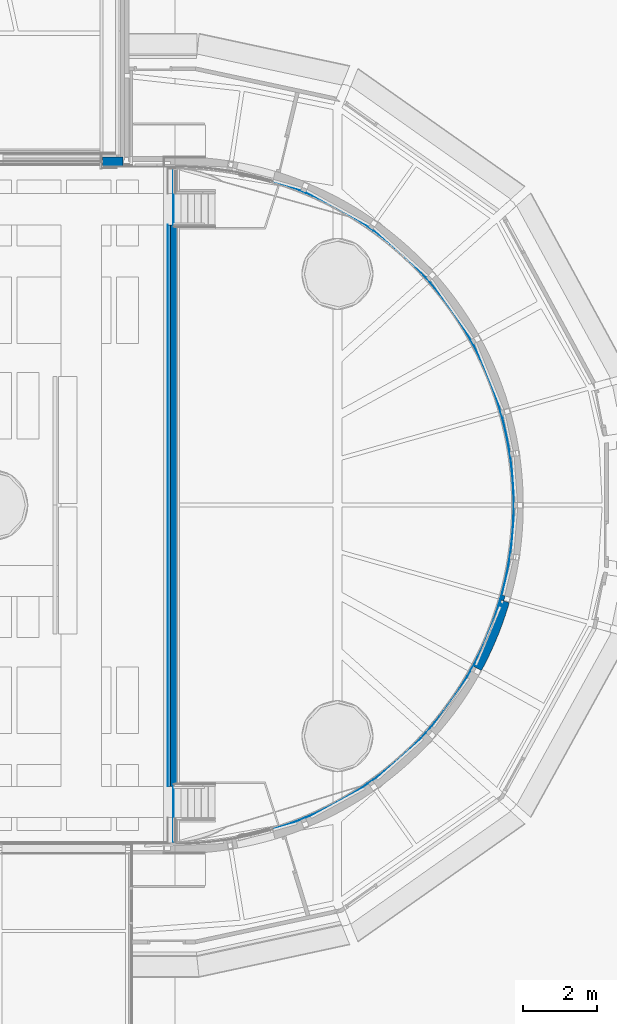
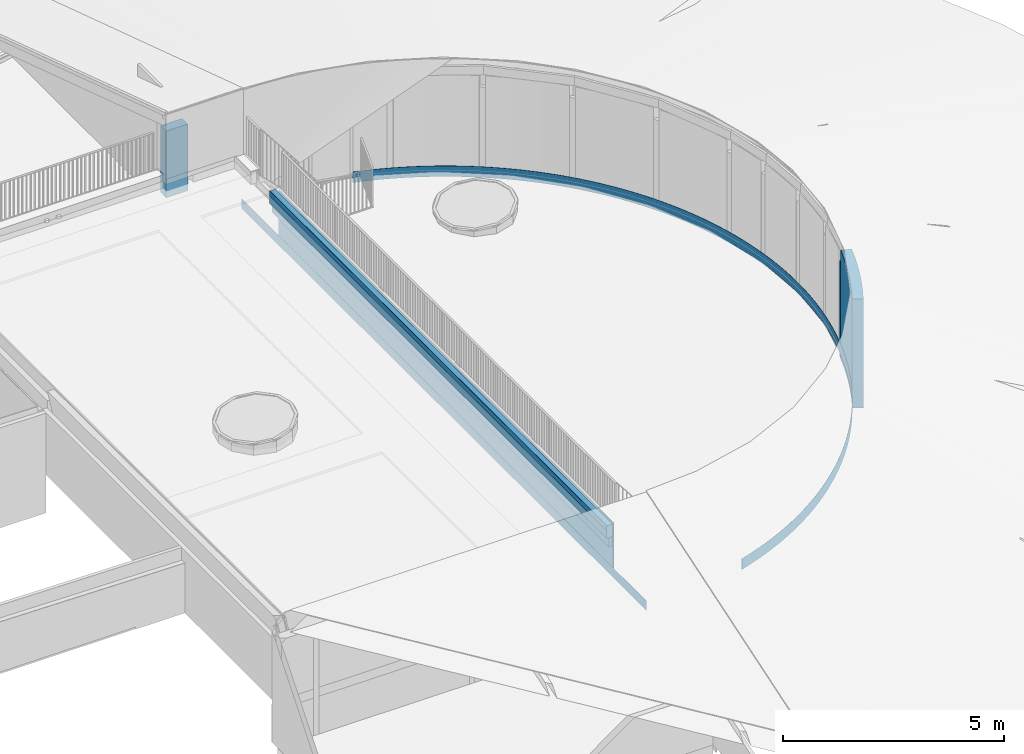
# One storey, part 31 of 66: 9 walls.
"""IFC2X3 building model written with IfcOpenShell, lengths in millimetres."""

from ifc_helpers import new_model, entity, si_unit, converted_unit, derived_unit, direction, frame, frame_2d, origin, place, context, subcontext, project, spatial, polyline, circle_curve, parameter, trimmed, segment, composite_curve, rectangle, outline, extrude, clip, halfspace, material, layer, layer_set, layer_usage, type_object, element, save


model = new_model("IFC2X3")

# Units and contexts
model_context = context("Model", 3, precision=0.01, world=origin(), true_north=direction((6.12303176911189e-17, 1.0)))
body_context = subcontext(model_context, "Body", "Model", "MODEL_VIEW")
ifc_project = project(units=[si_unit("LENGTHUNIT", "METRE", prefix="MILLI"), si_unit("AREAUNIT", "SQUARE_METRE"), si_unit("VOLUMEUNIT", "CUBIC_METRE"), converted_unit("PLANEANGLEUNIT", "DEGREE", entity("IfcRatioMeasure", 0.0174532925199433), si_unit("PLANEANGLEUNIT", "RADIAN"), dimensions=[0, 0, 0, 0, 0, 0, 0]), si_unit("MASSUNIT", "GRAM", prefix="KILO"), derived_unit("MASSDENSITYUNIT", [(si_unit("MASSUNIT", "GRAM", prefix="KILO"), 1), (si_unit("LENGTHUNIT", "METRE"), -3)]), derived_unit("MOMENTOFINERTIAUNIT", [(si_unit("LENGTHUNIT", "METRE"), 4)]), si_unit("TIMEUNIT", "SECOND"), si_unit("FREQUENCYUNIT", "HERTZ"), si_unit("THERMODYNAMICTEMPERATUREUNIT", "DEGREE_CELSIUS"), derived_unit("THERMALTRANSMITTANCEUNIT", [(si_unit("MASSUNIT", "GRAM", prefix="KILO"), 1), (si_unit("THERMODYNAMICTEMPERATUREUNIT", "KELVIN"), -1), (si_unit("TIMEUNIT", "SECOND"), -3)]), derived_unit("VOLUMETRICFLOWRATEUNIT", [(si_unit("LENGTHUNIT", "METRE"), 3), (si_unit("TIMEUNIT", "SECOND"), -1)]), si_unit("ELECTRICCURRENTUNIT", "AMPERE"), si_unit("ELECTRICVOLTAGEUNIT", "VOLT"), si_unit("POWERUNIT", "WATT"), si_unit("FORCEUNIT", "NEWTON", prefix="KILO"), si_unit("ILLUMINANCEUNIT", "LUX"), si_unit("LUMINOUSFLUXUNIT", "LUMEN"), si_unit("LUMINOUSINTENSITYUNIT", "CANDELA"), derived_unit("USERDEFINED", [(si_unit("MASSUNIT", "GRAM", prefix="KILO"), -1), (si_unit("LENGTHUNIT", "METRE"), -2), (si_unit("TIMEUNIT", "SECOND"), 3), (si_unit("LUMINOUSFLUXUNIT", "LUMEN"), 1)]), derived_unit("LINEARVELOCITYUNIT", [(si_unit("LENGTHUNIT", "METRE"), 1), (si_unit("TIMEUNIT", "SECOND"), -1)]), si_unit("PRESSUREUNIT", "PASCAL"), derived_unit("USERDEFINED", [(si_unit("LENGTHUNIT", "METRE"), -2), (si_unit("MASSUNIT", "GRAM", prefix="KILO"), 1), (si_unit("TIMEUNIT", "SECOND"), -2)]), derived_unit("LINEARFORCEUNIT", [(si_unit("MASSUNIT", "GRAM", prefix="KILO"), 1), (si_unit("LENGTHUNIT", "METRE"), 1), (si_unit("TIMEUNIT", "SECOND"), -2), (si_unit("LENGTHUNIT", "METRE"), -1)]), derived_unit("PLANARFORCEUNIT", [(si_unit("MASSUNIT", "GRAM", prefix="KILO"), 1), (si_unit("LENGTHUNIT", "METRE"), 1), (si_unit("TIMEUNIT", "SECOND"), -2), (si_unit("LENGTHUNIT", "METRE"), -2)])], contexts=[model_context])

# Site, building, storey
site_placement = place(None, origin())
site = spatial("IfcSite", under=ifc_project, at=site_placement, Name="Default", CompositionType="ELEMENT")
building_placement = place(site_placement, origin())
building = spatial("IfcBuilding", under=site, at=building_placement, Name="-", CompositionType="ELEMENT")
storey_placement = place(building_placement, frame((0.0, 0.0, 3070.0)))
storey = spatial("IfcBuildingStorey", under=building, at=storey_placement, Name="01 eerste verdieping", CompositionType="ELEMENT", Elevation=3070.00000000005)

# Walls
ifc_material_1 = material(Name="AL Houten gevelbekleding staand")
ifc_layer_1 = layer(ifc_material_1, 20.0)
ifc_layer_set_1 = layer_set([ifc_layer_1], Name="Basic Wall:NLRS_42_WA_Houten gevelbekleding staand 20mm")
ifc_layer_usage_1 = layer_usage(ifc_layer_set_1, "AXIS2", "NEGATIVE", 10.0)
wall_type_1 = type_object("IfcWallType", Name="Basic Wall:NLRS_42_WA_Houten gevelbekleding staand 20mm", PredefinedType="STANDARD", material=ifc_layer_set_1)
wall_1_placement = place(storey_placement, frame((50653.137263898, 12030.9965964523, 450.0), z_axis=(0.0, 0.0, 1.0), x_axis=(0.0, 1.0, 0.0)))
element("IfcWallStandardCase", 1, at=wall_1_placement, inside=storey, type_object=wall_type_1, material=ifc_layer_usage_1, Name="Basic Wall:NLRS_42_WA_Houten gevelbekleding staand 20mm", ObjectType="Basic Wall:NLRS_42_WA_Houten gevelbekleding staand 20mm", context=body_context, shape_type="SweptSolid", body=[
    extrude(rectangle(XDim=15132.0, YDim=19.9999999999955, at=frame_2d((7566.00000000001, 2.49578135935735e-13), x_axis=(-1.0, 0.0))), origin(), (0.0, 0.0, 1.0), 1275.0),
])
ifc_material_2 = material(Name="NLRS_i4_hout_underlayment")
ifc_layer_2 = layer(ifc_material_2, 9.0)
ifc_material_3 = material(Name="NLRS_m1_isolatie")
ifc_layer_3 = layer(ifc_material_3, 140.0)
ifc_layer_set_2 = layer_set([ifc_layer_2, ifc_layer_3], Name="Basic Wall:NLRS_21_WA_HSB-wand_149 (conform opgaaf constructeur)")
ifc_layer_usage_2 = layer_usage(ifc_layer_set_2, "AXIS2", "NEGATIVE", 74.5)
wall_type_2 = type_object("IfcWallType", Name="Basic Wall:NLRS_21_WA_HSB-wand_149 (conform opgaaf constructeur)", PredefinedType="STANDARD", material=ifc_layer_set_2)
wall_2_placement = place(storey_placement, frame((50524.6203901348, 11980.9965964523, 1390.0), z_axis=(0.0, 0.0, 1.0), x_axis=(0.0, 1.0, 0.0)))
element("IfcWallStandardCase", 2, at=wall_2_placement, inside=storey, type_object=wall_type_2, material=ifc_layer_usage_2, Name="Basic Wall:NLRS_21_WA_HSB-wand_149 (conform opgaaf constructeur)", ObjectType="Basic Wall:NLRS_21_WA_HSB-wand_149 (conform opgaaf constructeur)", context=body_context, shape_type="SweptSolid", body=[
    extrude(rectangle(XDim=15250.0, YDim=149.000000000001, at=frame_2d((7625.0, -1.32160948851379e-12), x_axis=(-1.0, 0.0))), origin(), (0.0, 0.0, 1.0), 339.043211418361),
])
ifc_material_4 = material(Name="NLRS_i4_hout_multiplex")
ifc_layer_4 = layer(ifc_material_4, 10.0)
ifc_layer_5 = layer(ifc_material_3, 235.0)
ifc_layer_6 = layer(ifc_material_4, 10.0)
ifc_layer_set_3 = layer_set([ifc_layer_4, ifc_layer_5, ifc_layer_6], Name="Basic Wall:NLRS_21_WA_HSB-wand_268mm (zonder gips)")
ifc_layer_usage_3 = layer_usage(ifc_layer_set_3, "AXIS2", "NEGATIVE", 127.5)
wall_type_3 = type_object("IfcWallType", Name="Basic Wall:NLRS_21_WA_HSB-wand_268mm (zonder gips)", PredefinedType="STANDARD", material=ifc_layer_set_3)
wall_3_placement = place(storey_placement, frame((58854.6561191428, 15182.3882482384, 100.0)))
element("IfcWallStandardCase", 3, at=wall_3_placement, inside=storey, type_object=wall_type_3, material=ifc_layer_usage_3, Name="Basic Wall:NLRS_21_WA_HSB-wand_268mm (zonder gips)", ObjectType="Basic Wall:NLRS_21_WA_HSB-wand_268mm (zonder gips)", context=body_context, shape_type="SweptSolid", body=[
    extrude(outline(composite_curve([segment(trimmed(circle_curve(frame_2d((-8208.0934571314, 4433.67148072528), x_axis=(1.0, 0.0)), 9201.5), [parameter(331.623922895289)], [parameter(343.748237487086)], True, "PARAMETER"), False, "CONTINUOUS"), segment(polyline([(-112.180503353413, 60.5952528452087), (112.180503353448, -60.5952528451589)]), True, "CONTINUOUS"), segment(trimmed(circle_curve(frame_2d((-8208.0934571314, 4433.67148072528), x_axis=(1.0, 0.0)), 9456.5), [parameter(331.623922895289)], [parameter(343.748237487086)], True, "PARAMETER"), True, "CONTINUOUS"), segment(polyline([(870.53658499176, 1787.18913461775), (625.726067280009, 1858.55306400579)]), True, "CONTINUOUS")], self_intersect=False)), origin(), (0.0, 0.0, 1.0), 3013.07274921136),
])
ifc_layer_usage_4 = layer_usage(ifc_layer_set_3, "AXIS2", "NEGATIVE", 127.5)
wall_4_placement = place(storey_placement, frame((49230.9383944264, 28944.9953625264, 1200.0), z_axis=(0.0, 0.0, 1.0), x_axis=(-1.0, 0.0, 0.0)))
element("IfcWallStandardCase", 4, at=wall_4_placement, inside=storey, type_object=wall_type_3, material=ifc_layer_usage_4, Name="Basic Wall:NLRS_21_WA_HSB-wand_268mm (zonder gips)", ObjectType="Basic Wall:NLRS_21_WA_HSB-wand_268mm (zonder gips)", context=body_context, shape_type="Clipping", body=[
    clip(extrude(rectangle(XDim=564.375732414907, YDim=255.000000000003, at=frame_2d((282.187866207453, 0.0), x_axis=(-1.0, 0.0))), origin(), (0.0, 0.0, 1.0), 1845.0), halfspace(frame((564.375732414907, -127.499999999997, 0.0), z_axis=(0.0, 0.0, -1.0), x_axis=(0.0, 1.0, 0.0)), False)),
])
ifc_material_5 = material(Name="NLRS_n7_isolatie PIR_gen")
ifc_layer_7 = layer(ifc_material_5, 70.0)
ifc_layer_set_4 = layer_set([ifc_layer_7], Name="Basic Wall:NLRS_22_WA_LB_isolatie PIR 70mm")
ifc_layer_usage_5 = layer_usage(ifc_layer_set_4, "AXIS2", "NEGATIVE", 35.0)
wall_type_4 = type_object("IfcWallType", Name="Basic Wall:NLRS_22_WA_LB_isolatie PIR 70mm", PredefinedType="STANDARD", material=ifc_layer_set_4)
wall_5_placement = place(storey_placement, frame((50549.1203901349, 27230.9965964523, 1122.0), z_axis=(0.0, 0.0, 1.0), x_axis=(0.0, -1.0, 0.0)))
element("IfcWallStandardCase", 5, at=wall_5_placement, inside=storey, type_object=wall_type_4, material=ifc_layer_usage_5, Name="Basic Wall:NLRS_22_WA_LB_isolatie PIR 70mm", ObjectType="Basic Wall:NLRS_22_WA_LB_isolatie PIR 70mm", context=body_context, shape_type="SweptSolid", body=[
    extrude(rectangle(XDim=15250.0, YDim=70.0000000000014, at=frame_2d((7625.0, 7.38964445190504e-13), x_axis=(-1.0, 0.0))), origin(), (0.0, 0.0, 1.0), 268.000000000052),
])
ifc_material_6 = material(Name="n2_bitumen_dak bedekking")
ifc_layer_8 = layer(ifc_material_6, 6.0)
ifc_layer_set_5 = layer_set([ifc_layer_8], Name="Basic Wall:47.11_2 laagse APP dakbedekking")
ifc_layer_usage_6 = layer_usage(ifc_layer_set_5, "AXIS2", "NEGATIVE", 3.0)
wall_type_5 = type_object("IfcWallType", Name="Basic Wall:47.11_2 laagse APP dakbedekking", PredefinedType="STANDARD", material=ifc_layer_set_5)
wall_6_placement = place(storey_placement, frame((50447.1203901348, 11980.9965964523, 1603.41863695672), z_axis=(0.0, 0.0, 1.0), x_axis=(0.0, 1.0, 0.0)))
element("IfcWallStandardCase", 6, at=wall_6_placement, inside=storey, type_object=wall_type_5, material=ifc_layer_usage_6, Name="Basic Wall:47.11_2 laagse APP dakbedekking", ObjectType="Basic Wall:47.11_2 laagse APP dakbedekking", context=body_context, shape_type="SweptSolid", body=[
    extrude(rectangle(XDim=15250.0, YDim=5.99999999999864, at=frame_2d((7625.0, -1.02828856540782e-12), x_axis=(-1.0, 0.0))), origin(), (0.0, 0.0, 1.0), 146.624574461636),
])
ifc_layer_usage_7 = layer_usage(ifc_layer_set_5, "AXIS2", "POSITIVE", -3.0)
wall_7_placement = place(storey_placement, frame((50602.1372638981, 10443.3564681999, 275.103313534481), z_axis=(0.0, 0.0, 1.0), x_axis=(0.0, 1.0, 0.0)))
element("IfcWallStandardCase", 7, at=wall_7_placement, inside=storey, type_object=wall_type_5, material=ifc_layer_usage_7, Name="Basic Wall:47.11_2 laagse APP dakbedekking", ObjectType="Basic Wall:47.11_2 laagse APP dakbedekking", context=body_context, shape_type="SweptSolid", body=[
    extrude(rectangle(XDim=18312.6149462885, YDim=5.99999999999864, at=frame_2d((9156.30747314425, -1.88893345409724e-12), x_axis=(-1.0, 0.0))), origin(), (0.0, 0.0, 1.0), 261.896686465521),
])
ifc_layer_usage_8 = layer_usage(ifc_layer_set_5, "AXIS2", "NEGATIVE", 3.0)
wall_8_placement = place(storey_placement, frame((53295.9418486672, 10807.4271432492, 240.0)))
element("IfcWallStandardCase", 8, at=wall_8_placement, inside=storey, type_object=wall_type_5, material=ifc_layer_usage_8, Name="Basic Wall:47.11_2 laagse APP dakbedekking", ObjectType="Basic Wall:47.11_2 laagse APP dakbedekking", context=body_context, shape_type="SweptSolid", body=[
    extrude(outline(composite_curve([segment(trimmed(circle_curve(frame_2d((-2649.37918665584, 8808.63258571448), x_axis=(1.0, 0.0)), 9195.4356335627), [parameter(286.739750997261)], [parameter(73.2343788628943)], True, "PARAMETER"), False, "CONTINUOUS"), segment(polyline([(-0.864074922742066, 2.87286869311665), (0.864074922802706, -2.87286869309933)]), True, "CONTINUOUS"), segment(trimmed(circle_curve(frame_2d((-2649.37918665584, 8808.63258571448), x_axis=(1.0, 0.0)), 9201.4356335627), [parameter(286.739750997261)], [parameter(73.2343788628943)], True, "PARAMETER"), True, "CONTINUOUS"), segment(polyline([(4.84236780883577, 17618.9405064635), (3.11162382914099, 17613.1955499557)]), True, "CONTINUOUS")], self_intersect=False)), origin(), (0.0, 0.0, 1.0), 296.999999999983),
])
ifc_layer_9 = layer(ifc_material_5, 90.0)
ifc_layer_set_6 = layer_set([ifc_layer_9], Name="Basic Wall:NLRS_22_WA_LB_isolatie PIR 90mm")
ifc_layer_usage_9 = layer_usage(ifc_layer_set_6, "AXIS2", "NEGATIVE", 45.0)
wall_type_6 = type_object("IfcWallType", Name="Basic Wall:NLRS_22_WA_LB_isolatie PIR 90mm", PredefinedType="STANDARD", material=ifc_layer_set_6)
wall_9_placement = place(storey_placement, frame((59529.5485160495, 17027.6528787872, 100.0), z_axis=(0.0, 0.0, 1.0), x_axis=(0.272490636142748, 0.96215843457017, 0.0)))
element("IfcWallStandardCase", 9, at=wall_9_placement, inside=storey, type_object=wall_type_6, material=ifc_layer_usage_9, Name="Basic Wall:NLRS_22_WA_LB_isolatie PIR 90mm", ObjectType="Basic Wall:NLRS_22_WA_LB_isolatie PIR 90mm", context=body_context, shape_type="SweptSolid", body=[
    extrude(rectangle(XDim=140.000000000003, YDim=90.0000000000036, at=frame_2d((70.0000000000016, -1.92912352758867e-12), x_axis=(-1.0, 0.0))), origin(), (0.0, 0.0, 1.0), 2625.73599912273),
])

save(model, "model.ifc")
